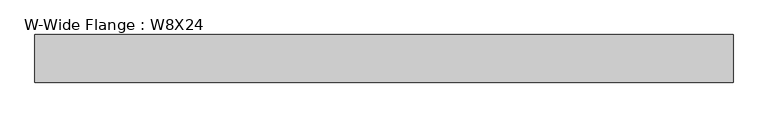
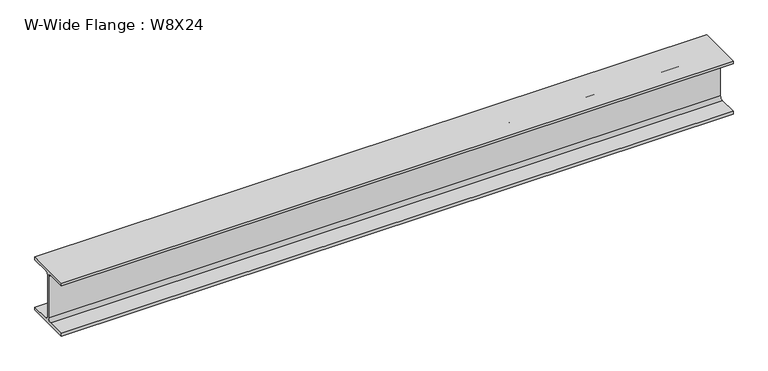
"""IFC4 building model written with IfcOpenShell, lengths in millimetres: beam geometry, W-Wide Flange : W8X24."""

from ifc_helpers import new_model, si_unit, point, frame, frame_2d, origin, place, context, project, spatial, polyline, circle_curve, trimmed, segment, composite_curve, outline, extrude, source, transform, mapped, element, save


def w_wide_flange_w8x24_86ed89ce(model_context):
    return source(origin(), model_context, "Body", "SweptSolid", [
        extrude(outline(composite_curve([segment(polyline([(82.55, -90.551), (82.55, -100.711), (-82.55, -100.711), (-82.55, -90.551), (-15.1765, -90.551)]), True, "CONTINUOUS"), segment(trimmed(circle_curve(frame_2d((-15.1765, -78.486)), 12.065), [point((-15.1765, -90.551))], [point((-3.1115, -78.486))], True, "CARTESIAN"), True, "CONTINUOUS"), segment(polyline([(-3.1115, -78.486), (-3.1115, 78.486)]), True, "CONTINUOUS"), segment(trimmed(circle_curve(frame_2d((-15.1765, 78.486)), 12.065), [point((-3.1115, 78.486))], [point((-15.1765, 90.551))], True, "CARTESIAN"), True, "CONTINUOUS"), segment(polyline([(-15.1765, 90.551), (-82.55, 90.551), (-82.55, 100.711), (82.55, 100.711), (82.55, 90.551), (15.1765, 90.551)]), True, "CONTINUOUS"), segment(trimmed(circle_curve(frame_2d((15.1765, 78.486)), 12.065), [point((15.1765, 90.551))], [point((3.1115, 78.486))], True, "CARTESIAN"), True, "CONTINUOUS"), segment(polyline([(3.1115, 78.486), (3.1115, -78.486)]), True, "CONTINUOUS"), segment(trimmed(circle_curve(frame_2d((15.1765, -78.486)), 12.065), [point((3.1115, -78.486))], [point((15.1765, -90.551))], True, "CARTESIAN"), True, "CONTINUOUS"), segment(polyline([(15.1765, -90.551), (82.55, -90.551)]), True, "CONTINUOUS")], self_intersect=False)), frame((-1250.95, 0.0, 0.0), z_axis=(1.0, 0.0, 0.0), x_axis=(0.0, 1.0, 0.0)), (0.0, 0.0, 1.0), 2419.35),
    ])


if __name__ == "__main__":
    model = new_model("IFC4")
    model_context = context("Model", 3, world=origin())
    ifc_project = project(units=[si_unit("LENGTHUNIT", "METRE", prefix="MILLI")], contexts=[model_context])
    site = spatial("IfcSite", under=ifc_project)
    building = spatial("IfcBuilding", under=site)
    placement = place(None, origin())
    w_wide_flange_w8x24_shape = w_wide_flange_w8x24_86ed89ce(model_context)
    element("IfcBeam", 1, ObjectType="W-Wide Flange : W8X24", at=placement, inside=building, context=model_context, shape_type="MappedRepresentation", body=[
        mapped(w_wide_flange_w8x24_shape, transform((0.0, 0.0, 0.0), x_axis=(1.0, 0.0, 0.0), y_axis=(0.0, 1.0, 0.0), z_axis=(0.0, 0.0, 1.0))),
    ])
    save(model, "model.ifc")
